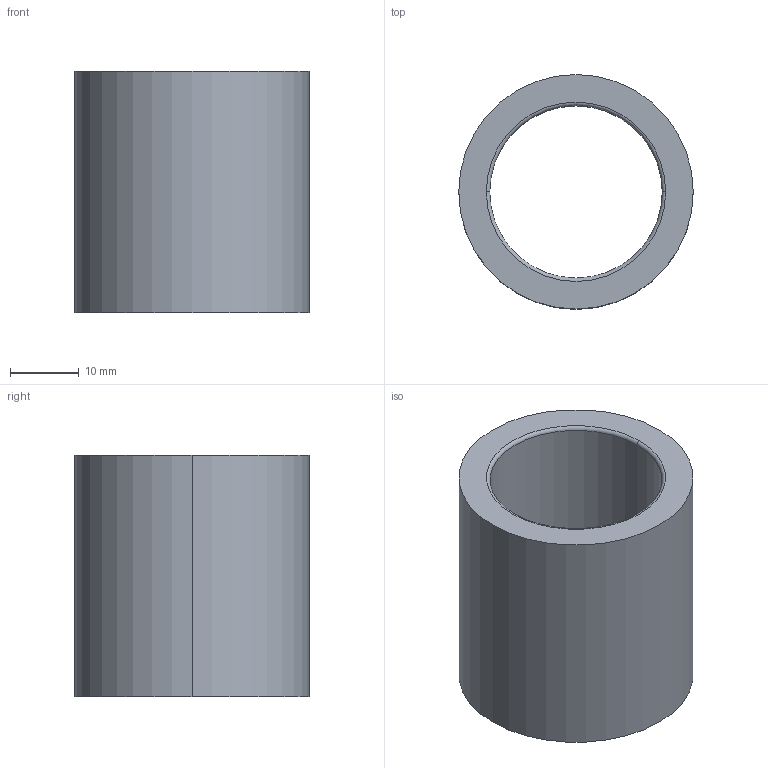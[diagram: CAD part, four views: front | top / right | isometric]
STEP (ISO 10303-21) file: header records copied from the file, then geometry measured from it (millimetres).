
FILE_DESCRIPTION(/* description */ (''),/* implementation_level */ '2;1');
FILE_NAME(/* name */ '3d_sgbz25-35_00305_r00.stp',/* time_stamp */ '2011-01-10T14:11:11+09:00',/* author */ ('MISUMI'),/* organization */ (''),/* preprocessor_version */ 'ST-DEVELOPER v11',/* originating_system */ 'UGS - NX 5.0',/* authorisation */ '');
FILE_SCHEMA (('CONFIG_CONTROL_DESIGN'));
Length unit declared in the file: millimetre
Products named in the file (1): 3d_sgbz25-35_00305_r00
Bounding box: 34 x 34 x 35 mm (x, y, z)
Volume: 14588.1 mm3; surface area: 7288 mm2
Topology: 1 solids, 1 shells, 10 faces, 20 edges, 12 vertices
Faces by surface type: cylinder 4, torus 4, plane 2
Entity records: 358 total; most frequent: DIRECTION 58, CARTESIAN_POINT 43, ORIENTED_EDGE 40, AXIS2_PLACEMENT_3D 27, EDGE_CURVE 20, CIRCLE 16, EDGE_LOOP 12, VERTEX_POINT 12
